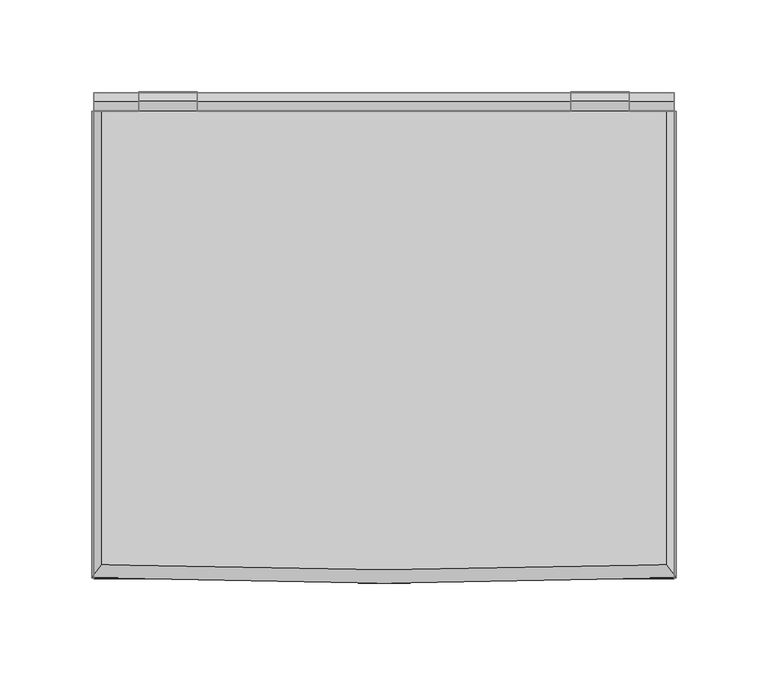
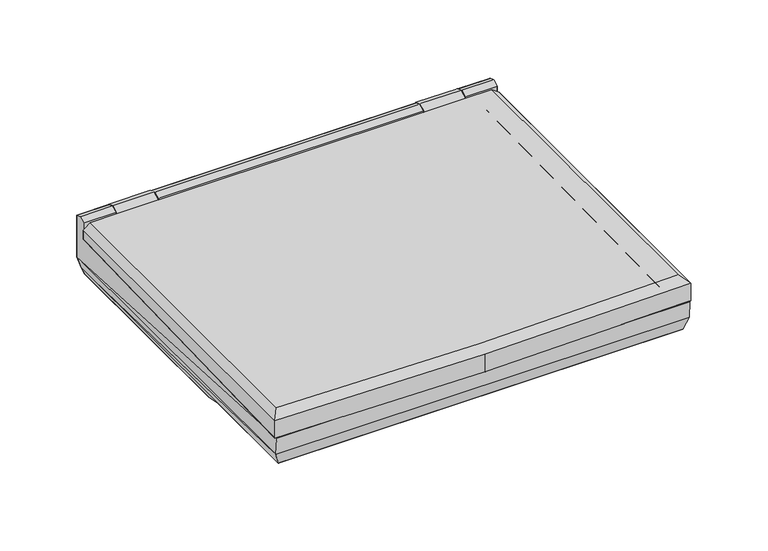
"""IFC4 building model written with IfcOpenShell, lengths in millimetres: proxy geometry, RPC Notebook Computer : RPC Notebook Computer."""

from ifc_helpers import new_model, si_unit, origin, place, context, project, spatial, triangles, source, transform, mapped, element, save


def entourage_4c8cfd20(model_context):
    return source(origin(), model_context, "Body", "Tessellation", [
        triangles([(-158.4296647, -167.5812681, 28.2218875), (-101.7496669, 97.7313983, 35.1332139), (-101.7496669, 97.7313983, 48.4910491), (-101.7496669, 92.7961799, 50.2665039), (-101.7496669, 87.9168539, 48.1837095), (-101.7496669, 87.9168539, 35.1332139), (-158.4296647, 87.9168539, 35.1332139), (-133.8221823, 97.7288549, 35.1332139), (-133.8221823, 97.7313983, 48.4910491), (-133.8221823, 92.7961799, 50.2665039), (-133.8221823, 87.9168539, 48.1837095), (-133.8221823, 87.9168539, 35.1332139), (158.4322081, -167.5812681, 28.2218875), (101.7496669, 97.7313983, 35.1332139), (101.7496669, 97.7313983, 48.4910491), (101.7496669, 92.7961799, 50.2665039), (101.7496669, 87.9168539, 48.1837095), (101.7496669, 87.9168539, 35.1332139), (85.2320795, -66.8399745, 31.8083601), (-144.8813274, -53.1646373, 31.9658404), (85.2320795, -53.1646373, 31.9658404), (-144.8813274, 60.6703247, 34.190875), (146.9209376, 74.3380406, 34.2924744), (146.9209376, -66.8399745, 31.8083601), (158.4322081, 87.9168539, 35.1332139), (133.8247257, 97.7313983, 35.1332139), (133.8247257, 97.7313983, 48.4910491), (133.8247257, 92.7961799, 50.2665039), (133.8247257, 87.9168539, 48.1837095), (133.8247257, 87.9168539, 35.1332139), (-142.7070869, 58.4935499, 29.3902845), (15.8851303, 74.3380406, 34.2924744), (19.0347234, 72.5752803, 29.491884), (15.8851303, 60.6703247, 34.190875), (19.0347234, 58.4935499, 29.3902845), (-155.2851437, -164.0506697, 4.7853507), (-155.2851437, -83.3296248, 4.869171), (-153.4715916, -69.0040502, 0.0), (-153.4715916, 95.8771965, 0.0), (155.2876871, -164.0506697, 4.7853507), (155.2851437, -83.3296248, 4.869171), (153.4715916, -69.0040502, 0.0), (153.4715916, 95.8771965, 0.0), (-155.2851437, 97.7313983, 4.869171), (-158.4296647, 97.7313983, 14.9046918), (-158.4296647, 97.7313983, 48.4910491), (155.2851437, 97.7313983, 4.869171), (158.4322081, 97.7313983, 14.9046918), (158.4322081, 97.7313983, 48.4910491), (-158.4296647, 92.7961799, 50.2665039), (-158.4296647, 87.9168539, 48.1837095), (158.4322081, 92.7961799, 50.2665039), (158.4322081, 87.9168539, 48.1837095), (-158.6201509, -166.809095, 14.9046918), (158.6201509, -166.809095, 14.9046918), (87.4063109, -64.9654568, 27.0992089), (-142.7070869, -51.2901242, 27.2541481), (87.4063109, -51.2901242, 27.2541481), (144.7467062, 72.5752803, 29.491884), (144.7467062, -64.9654568, 27.0992089), (141.2262725, -62.1181243, 32.971677), (90.9267446, -62.1181243, 32.971677), (-138.3738576, -48.4427871, 33.1266163), (90.9267446, -48.4427871, 33.1266163), (-138.3738576, 55.455713, 35.1128935), (141.2262725, 69.5374479, 35.2170342), (21.8820582, 55.455713, 35.1128935), (21.8820582, 69.5374479, 35.2170342), (0.0, 78.9883291, 38.7773751), (0.0, -148.3190173, 34.6998691), (-145.6915886, 78.9897371, 38.772488), (-145.6915886, -148.3190173, 34.6998691), (145.109929, 78.9897371, 38.772488), (145.109929, -148.3190173, 34.6998691), (0.0, 80.5417862, 35.3042041), (0.0, -149.5301715, 31.5516783), (-147.9064607, 80.5407416, 35.2986221), (-147.9064607, -149.5301715, 31.5516783), (147.3248011, 80.5407416, 35.2986221), (147.3248011, -149.5301715, 31.5516783), (0.0, -169.8360542, 28.0754711), (0.0, -169.7931244, 42.3380044), (-159.4431202, -167.0172945, 28.4001878), (-159.4431202, -166.9750733, 42.6651647), (159.4431202, -167.0172945, 28.4001878), (159.4431202, -166.9750733, 42.6651647), (0.0, -162.5080131, 46.5302948), (0.0, 87.4703786, 47.1442926), (-101.7496669, 98.2048796, 48.5682428), (-154.0176883, -159.6892353, 46.8550116), (-101.7496669, 87.4703786, 47.1442926), (-133.8221823, 98.2034989, 48.5546353), (-133.7332887, 87.4703786, 47.1442926), (-154.0176883, 87.4703786, 47.1442926), (-133.8221823, 93.2694705, 50.3265112), (-101.7496669, 93.2694705, 50.3265112), (-159.4431202, 87.4719228, 42.9645241), (101.7496669, 98.2048796, 48.5682428), (154.0176883, -159.6892353, 46.8550116), (101.7496669, 87.4703786, 47.1442926), (133.8221823, 98.2034989, 48.5546353), (133.7332887, 87.4703786, 47.1442926), (154.0176883, 87.4703786, 47.1442926), (133.8221823, 93.2694705, 50.3265112), (101.7496669, 93.2694705, 50.3265112), (159.4431202, 87.4719228, 42.9645241), (0.0, 87.4749477, 35.3976872), (-101.7496669, 98.2071505, 35.1985783), (-101.7496669, 87.4735397, 35.4025697), (-133.8221823, 98.2071505, 35.1985783), (101.7496669, 98.2071505, 35.1985783), (101.7496669, 87.4735397, 35.4025697), (133.8221823, 98.2071505, 35.1985783), (-133.7332887, 87.4735397, 35.4025697), (-159.4431202, 87.4732036, 35.3945465), (133.7332887, 87.4735397, 35.4025697), (159.4431202, 87.4732036, 35.3945465), (0.0, -167.5662254, 28.1582286), (-156.9437634, -164.7481562, 28.4853888), (-159.4431202, -69.7213121, 31.0754356), (0.0, -165.6878881, 31.2097138), (-155.5010462, -162.8722714, 31.5361724), (156.9437634, -164.7481562, 28.4853888), (159.4431202, -69.7213121, 31.0754356), (155.5010462, -162.8722714, 31.5361724)], [[19, 1, 13], [2, 6, 3], [3, 6, 4], [4, 6, 5], [12, 6, 8], [8, 6, 2], [11, 12, 10], [10, 12, 9], [9, 12, 8], [21, 20, 19], [20, 1, 19], [22, 6, 12], [1, 20, 7], [22, 12, 7], [23, 6, 32], [18, 6, 23], [19, 13, 24], [14, 15, 18], [15, 16, 18], [16, 17, 18], [30, 26, 18], [26, 14, 18], [29, 28, 30], [28, 27, 30], [27, 26, 30], [24, 25, 23], [23, 30, 18], [13, 25, 24], [23, 25, 30], [32, 6, 22], [22, 34, 32], [31, 33, 35], [37, 41, 36], [36, 41, 40], [42, 41, 38], [38, 41, 37], [39, 43, 38], [38, 43, 42], [44, 8, 2], [8, 44, 45], [45, 46, 9], [9, 8, 45], [44, 47, 39], [39, 47, 43], [2, 14, 47], [2, 47, 44], [3, 15, 14], [3, 14, 2], [47, 14, 26], [26, 48, 47], [48, 27, 49], [27, 48, 26], [50, 51, 11], [11, 10, 50], [5, 17, 16], [5, 16, 4], [52, 29, 53], [29, 52, 28], [46, 50, 10], [10, 9, 46], [4, 16, 15], [4, 15, 3], [49, 28, 52], [28, 49, 27], [13, 1, 55], [55, 1, 54], [55, 54, 40], [40, 54, 36], [55, 40, 41], [48, 52, 25], [52, 48, 49], [53, 25, 52], [41, 43, 47], [13, 48, 25], [55, 47, 48], [43, 41, 42], [48, 13, 55], [47, 55, 41], [51, 7, 12], [12, 11, 51], [6, 18, 17], [6, 17, 5], [53, 30, 25], [30, 53, 29], [54, 37, 36], [45, 7, 50], [50, 46, 45], [51, 50, 7], [37, 44, 39], [1, 7, 45], [54, 45, 44], [39, 38, 37], [45, 54, 1], [44, 37, 54], [57, 31, 22], [23, 32, 33], [33, 59, 23], [20, 21, 58], [58, 57, 20], [21, 19, 56], [56, 58, 21], [19, 24, 60], [60, 56, 19], [24, 23, 59], [59, 60, 24], [34, 22, 31], [31, 35, 34], [33, 32, 34], [34, 35, 33], [59, 35, 33], [20, 22, 7], [22, 20, 57], [67, 65, 63], [67, 63, 64], [64, 62, 61], [66, 64, 61], [31, 57, 63], [63, 65, 31], [35, 31, 65], [65, 67, 35], [57, 58, 64], [64, 63, 57], [58, 56, 62], [62, 64, 58], [56, 60, 61], [61, 62, 56], [60, 59, 66], [66, 61, 60], [66, 67, 64], [68, 66, 59], [59, 33, 68], [35, 67, 68], [68, 33, 35], [66, 68, 67], [69, 70, 72], [69, 72, 71], [69, 74, 70], [69, 73, 74], [76, 78, 72], [72, 70, 76], [77, 75, 69], [69, 71, 77], [78, 77, 71], [71, 72, 78], [76, 74, 80], [74, 76, 70], [79, 69, 75], [69, 79, 73], [80, 73, 79], [73, 80, 74], [81, 82, 84], [81, 84, 83], [81, 86, 82], [81, 85, 86], [82, 87, 90], [82, 90, 84], [87, 88, 91], [87, 91, 90], [90, 91, 93], [96, 89, 92], [96, 92, 95], [90, 93, 94], [97, 90, 94], [91, 95, 93], [91, 96, 95], [97, 84, 90], [82, 99, 87], [82, 86, 99], [87, 100, 88], [87, 99, 100], [99, 102, 100], [105, 101, 98], [105, 104, 101], [102, 99, 103], [106, 103, 99], [100, 102, 104], [100, 104, 105], [106, 99, 86], [89, 108, 110], [89, 110, 92], [96, 91, 89], [89, 91, 108], [108, 91, 109], [91, 88, 109], [109, 88, 107], [98, 113, 111], [98, 101, 113], [105, 98, 100], [98, 111, 100], [111, 112, 100], [100, 112, 88], [112, 107, 88], [93, 114, 115], [93, 115, 97], [95, 92, 93], [93, 92, 114], [114, 92, 110], [93, 97, 94], [102, 117, 116], [102, 106, 117], [104, 102, 101], [102, 116, 101], [116, 113, 101], [102, 103, 106], [108, 109, 114], [108, 114, 110], [81, 83, 119], [109, 107, 75], [75, 77, 109], [114, 109, 77], [120, 115, 77], [114, 77, 115], [119, 118, 81], [77, 78, 120], [119, 120, 122], [76, 121, 122], [76, 122, 78], [119, 122, 121], [119, 121, 118], [120, 78, 122], [83, 120, 119], [111, 116, 112], [111, 113, 116], [81, 123, 85], [112, 75, 107], [75, 112, 79], [116, 79, 112], [124, 79, 117], [117, 79, 116], [123, 81, 118], [79, 124, 80], [123, 125, 124], [76, 125, 121], [76, 80, 125], [123, 121, 125], [123, 118, 121], [124, 125, 80], [85, 123, 124], [117, 86, 124], [117, 106, 86], [124, 86, 85], [115, 120, 84], [115, 84, 97], [120, 83, 84]], closed=False),
    ])


if __name__ == "__main__":
    model = new_model("IFC4")
    model_context = context("Model", 3, world=origin())
    ifc_project = project(units=[si_unit("LENGTHUNIT", "METRE", prefix="MILLI")], contexts=[model_context])
    site = spatial("IfcSite", under=ifc_project)
    building = spatial("IfcBuilding", under=site)
    placement = place(None, origin())
    entourage_shape = entourage_4c8cfd20(model_context)
    element("IfcBuildingElementProxy", 1, Name="RPC Notebook Computer : RPC Notebook Computer", ObjectType="RPC Notebook Computer : RPC Notebook Computer", at=placement, inside=building, context=model_context, shape_type="MappedRepresentation", body=[
        mapped(entourage_shape, transform((0.0, 0.0, 0.0), x_axis=(1.0, 0.0, 0.0), y_axis=(0.0, 1.0, 0.0), z_axis=(0.0, 0.0, 1.0))),
    ])
    save(model, "model.ifc")
